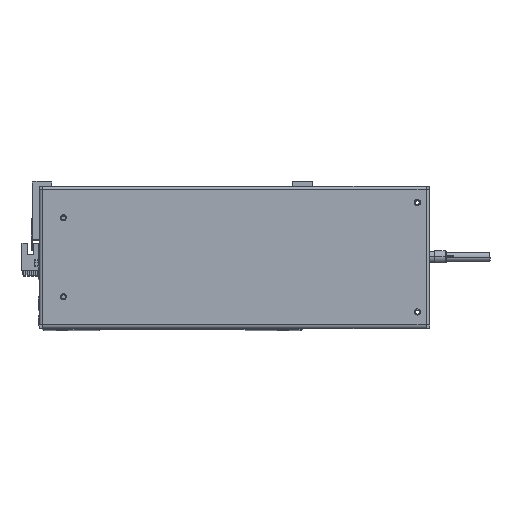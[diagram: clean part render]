
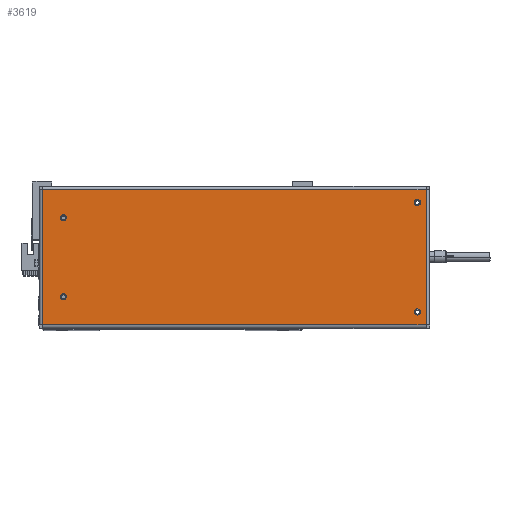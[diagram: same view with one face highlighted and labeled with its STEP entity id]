
A CAD part, top view. The second image highlights one B-rep face of the part: STEP entity #3619.
In plain terms, the highlighted planar face has unit normal (0, 0, 1).
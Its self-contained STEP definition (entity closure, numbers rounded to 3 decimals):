
#78 = FACE_OUTER_BOUND ( 'NONE', #31932, .T. ) ;
#141 = DIRECTION ( 'NONE',  ( 1., 0., 0. ) ) ;
#203 = VERTEX_POINT ( 'NONE', #25141 ) ;
#531 = FACE_BOUND ( 'NONE', #24674, .T. ) ;
#916 = VECTOR ( 'NONE', #12138, 1000. ) ;
#1951 = VERTEX_POINT ( 'NONE', #8260 ) ;
#2424 = CIRCLE ( 'NONE', #26522, 2.5 ) ;
#2522 = CARTESIAN_POINT ( 'NONE',  ( 157.7, 55.6, 0. ) ) ;
#2611 = DIRECTION ( 'NONE',  ( 0., 0., 1. ) ) ;
#2816 = VERTEX_POINT ( 'NONE', #21539 ) ;
#3322 = LINE ( 'NONE', #27551, #27230 ) ;
#3386 = VERTEX_POINT ( 'NONE', #24706 ) ;
#3619 = ADVANCED_FACE ( 'NONE', ( #29961, #11141, #12067, #531, #78 ), #5971, .F. ) ;
#3847 = LINE ( 'NONE', #2522, #37322 ) ;
#4247 = EDGE_CURVE ( 'NONE', #14536, #19437, #7619, .T. ) ;
#4248 = AXIS2_PLACEMENT_3D ( 'NONE', #16263, #4661, #7634 ) ;
#4661 = DIRECTION ( 'NONE',  ( 0., 0., 1. ) ) ;
#5028 = EDGE_LOOP ( 'NONE', ( #20983, #13045 ) ) ;
#5119 = DIRECTION ( 'NONE',  ( 0., 0., 1. ) ) ;
#5294 = CARTESIAN_POINT ( 'NONE',  ( -157.6, -55.6, 0. ) ) ;
#5380 = DIRECTION ( 'NONE',  ( 1., 0., 0. ) ) ;
#5959 = ORIENTED_EDGE ( 'NONE', *, *, #8320, .F. ) ;
#5971 = PLANE ( 'NONE',  #37553 ) ;
#6100 = DIRECTION ( 'NONE',  ( 0., 0., -1. ) ) ;
#6105 = CARTESIAN_POINT ( 'NONE',  ( 150.5, -45., 0. ) ) ;
#6232 = DIRECTION ( 'NONE',  ( 0., 0., 1. ) ) ;
#7016 = ORIENTED_EDGE ( 'NONE', *, *, #4247, .F. ) ;
#7081 = AXIS2_PLACEMENT_3D ( 'NONE', #6105, #6232, #18946 ) ;
#7379 = CARTESIAN_POINT ( 'NONE',  ( -143., 32.5, 0. ) ) ;
#7619 = CIRCLE ( 'NONE', #26828, 2.5 ) ;
#7634 = DIRECTION ( 'NONE',  ( 1., 0., 0. ) ) ;
#7713 = DIRECTION ( 'NONE',  ( 1., 0., 0. ) ) ;
#7772 = CIRCLE ( 'NONE', #8388, 2.5 ) ;
#7968 = CARTESIAN_POINT ( 'NONE',  ( 157.6, 55.6, 0. ) ) ;
#8179 = CARTESIAN_POINT ( 'NONE',  ( -138., -32.5, 0. ) ) ;
#8260 = CARTESIAN_POINT ( 'NONE',  ( 148., -45., 0. ) ) ;
#8320 = EDGE_CURVE ( 'NONE', #35500, #16381, #2424, .T. ) ;
#8332 = EDGE_CURVE ( 'NONE', #16381, #35500, #29575, .T. ) ;
#8388 = AXIS2_PLACEMENT_3D ( 'NONE', #14882, #35355, #17431 ) ;
#8470 = DIRECTION ( 'NONE',  ( -1., 0., 0. ) ) ;
#8729 = EDGE_CURVE ( 'NONE', #2816, #10015, #3322, .T. ) ;
#10015 = VERTEX_POINT ( 'NONE', #7968 ) ;
#10113 = DIRECTION ( 'NONE',  ( 0., 1., 0. ) ) ;
#10726 = CIRCLE ( 'NONE', #7081, 2.5 ) ;
#11141 = FACE_BOUND ( 'NONE', #5028, .T. ) ;
#11315 = CARTESIAN_POINT ( 'NONE',  ( -157.6, 55.6, 0. ) ) ;
#12047 = AXIS2_PLACEMENT_3D ( 'NONE', #34705, #2611, #23190 ) ;
#12067 = FACE_BOUND ( 'NONE', #30058, .T. ) ;
#12078 = EDGE_CURVE ( 'NONE', #25484, #2816, #20449, .T. ) ;
#12138 = DIRECTION ( 'NONE',  ( 0., -1., 0. ) ) ;
#12865 = VERTEX_POINT ( 'NONE', #7379 ) ;
#12921 = CIRCLE ( 'NONE', #4248, 2.5 ) ;
#12995 = AXIS2_PLACEMENT_3D ( 'NONE', #31782, #13801, #141 ) ;
#13045 = ORIENTED_EDGE ( 'NONE', *, *, #34964, .F. ) ;
#13372 = CARTESIAN_POINT ( 'NONE',  ( -143., -32.5, 0. ) ) ;
#13792 = ORIENTED_EDGE ( 'NONE', *, *, #12078, .T. ) ;
#13801 = DIRECTION ( 'NONE',  ( 0., 0., 1. ) ) ;
#14342 = DIRECTION ( 'NONE',  ( 0., 0., 1. ) ) ;
#14536 = VERTEX_POINT ( 'NONE', #13372 ) ;
#14646 = ORIENTED_EDGE ( 'NONE', *, *, #8332, .F. ) ;
#14882 = CARTESIAN_POINT ( 'NONE',  ( -140.5, 32.5, 0. ) ) ;
#14934 = ORIENTED_EDGE ( 'NONE', *, *, #24007, .T. ) ;
#16263 = CARTESIAN_POINT ( 'NONE',  ( -140.5, -32.5, 0. ) ) ;
#16381 = VERTEX_POINT ( 'NONE', #19529 ) ;
#17431 = DIRECTION ( 'NONE',  ( 1., 0., 0. ) ) ;
#17785 = ORIENTED_EDGE ( 'NONE', *, *, #8729, .T. ) ;
#18182 = CARTESIAN_POINT ( 'NONE',  ( 157.7, 58.5, 0. ) ) ;
#18621 = EDGE_CURVE ( 'NONE', #3386, #12865, #7772, .T. ) ;
#18946 = DIRECTION ( 'NONE',  ( 1., 0., 0. ) ) ;
#19437 = VERTEX_POINT ( 'NONE', #8179 ) ;
#19529 = CARTESIAN_POINT ( 'NONE',  ( 153., 45., 0. ) ) ;
#19967 = VERTEX_POINT ( 'NONE', #11315 ) ;
#20363 = CARTESIAN_POINT ( 'NONE',  ( 150.5, 45., 0. ) ) ;
#20449 = LINE ( 'NONE', #36039, #32871 ) ;
#20983 = ORIENTED_EDGE ( 'NONE', *, *, #18621, .F. ) ;
#21539 = CARTESIAN_POINT ( 'NONE',  ( 157.6, -55.6, 0. ) ) ;
#22329 = EDGE_LOOP ( 'NONE', ( #35093, #7016 ) ) ;
#23014 = DIRECTION ( 'NONE',  ( 0., 0., 1. ) ) ;
#23190 = DIRECTION ( 'NONE',  ( 1., 0., 0. ) ) ;
#23828 = CARTESIAN_POINT ( 'NONE',  ( -157.6, 55.6, 0. ) ) ;
#24007 = EDGE_CURVE ( 'NONE', #19967, #25484, #37607, .T. ) ;
#24674 = EDGE_LOOP ( 'NONE', ( #14646, #5959 ) ) ;
#24706 = CARTESIAN_POINT ( 'NONE',  ( -138., 32.5, 0. ) ) ;
#25075 = DIRECTION ( 'NONE',  ( 1., 0., 0. ) ) ;
#25141 = CARTESIAN_POINT ( 'NONE',  ( 153., -45., 0. ) ) ;
#25239 = EDGE_CURVE ( 'NONE', #10015, #19967, #3847, .T. ) ;
#25484 = VERTEX_POINT ( 'NONE', #5294 ) ;
#26156 = ORIENTED_EDGE ( 'NONE', *, *, #25239, .T. ) ;
#26522 = AXIS2_PLACEMENT_3D ( 'NONE', #20363, #14342, #37762 ) ;
#26828 = AXIS2_PLACEMENT_3D ( 'NONE', #28106, #5119, #7713 ) ;
#27230 = VECTOR ( 'NONE', #10113, 1000. ) ;
#27262 = ORIENTED_EDGE ( 'NONE', *, *, #36376, .F. ) ;
#27417 = EDGE_CURVE ( 'NONE', #19437, #14536, #12921, .T. ) ;
#27551 = CARTESIAN_POINT ( 'NONE',  ( 157.6, -55.6, 0. ) ) ;
#28106 = CARTESIAN_POINT ( 'NONE',  ( -140.5, -32.5, 0. ) ) ;
#29495 = DIRECTION ( 'NONE',  ( -1., 0., 0. ) ) ;
#29575 = CIRCLE ( 'NONE', #12047, 2.5 ) ;
#29961 = FACE_BOUND ( 'NONE', #22329, .T. ) ;
#30058 = EDGE_LOOP ( 'NONE', ( #27262, #36747 ) ) ;
#30284 = CARTESIAN_POINT ( 'NONE',  ( 148., 45., 0. ) ) ;
#31758 = CARTESIAN_POINT ( 'NONE',  ( -140.5, 32.5, 0. ) ) ;
#31782 = CARTESIAN_POINT ( 'NONE',  ( 150.5, -45., 0. ) ) ;
#31932 = EDGE_LOOP ( 'NONE', ( #14934, #13792, #17785, #26156 ) ) ;
#32792 = AXIS2_PLACEMENT_3D ( 'NONE', #31758, #23014, #5380 ) ;
#32871 = VECTOR ( 'NONE', #25075, 1000. ) ;
#33251 = CIRCLE ( 'NONE', #12995, 2.5 ) ;
#34674 = CIRCLE ( 'NONE', #32792, 2.5 ) ;
#34705 = CARTESIAN_POINT ( 'NONE',  ( 150.5, 45., 0. ) ) ;
#34964 = EDGE_CURVE ( 'NONE', #12865, #3386, #34674, .T. ) ;
#35093 = ORIENTED_EDGE ( 'NONE', *, *, #27417, .F. ) ;
#35355 = DIRECTION ( 'NONE',  ( 0., 0., 1. ) ) ;
#35500 = VERTEX_POINT ( 'NONE', #30284 ) ;
#36039 = CARTESIAN_POINT ( 'NONE',  ( -157.7, -55.6, 0. ) ) ;
#36060 = EDGE_CURVE ( 'NONE', #1951, #203, #10726, .T. ) ;
#36376 = EDGE_CURVE ( 'NONE', #203, #1951, #33251, .T. ) ;
#36747 = ORIENTED_EDGE ( 'NONE', *, *, #36060, .F. ) ;
#37322 = VECTOR ( 'NONE', #8470, 1000. ) ;
#37553 = AXIS2_PLACEMENT_3D ( 'NONE', #18182, #6100, #29495 ) ;
#37607 = LINE ( 'NONE', #23828, #916 ) ;
#37762 = DIRECTION ( 'NONE',  ( 1., 0., 0. ) ) ;
